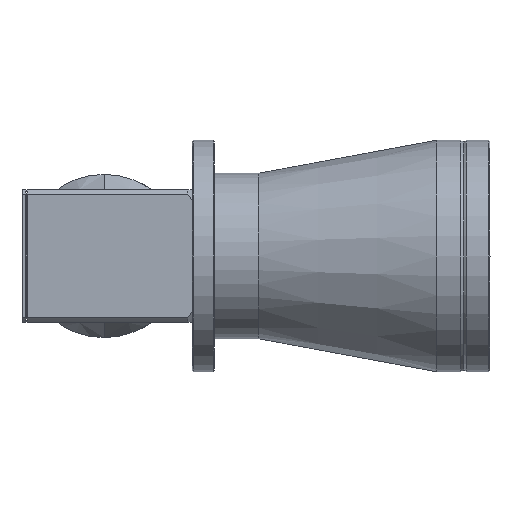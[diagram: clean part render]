
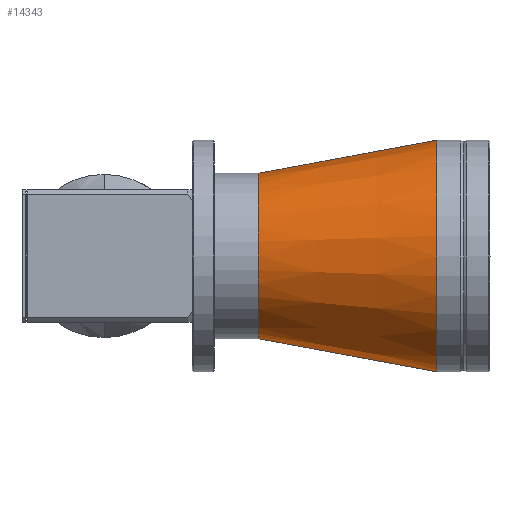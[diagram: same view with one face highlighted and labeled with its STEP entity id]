
A CAD part, left-side view. The second image highlights one B-rep face of the part: STEP entity #14343.
In plain terms, the highlighted conical face has half-angle 10.5 degrees and reference radius 37.5 mm.
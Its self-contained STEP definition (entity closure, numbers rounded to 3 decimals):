
#2229 = VECTOR ( 'NONE', #23418, 1000. ) ;
#2288 = VERTEX_POINT ( 'NONE', #15223 ) ;
#2533 = CARTESIAN_POINT ( 'NONE',  ( 0., 305., -37.5 ) ) ;
#2800 = EDGE_CURVE ( 'NONE', #2288, #15027, #10787, .T. ) ;
#3652 = DIRECTION ( 'NONE',  ( 0., -1., 0. ) ) ;
#3839 = EDGE_LOOP ( 'NONE', ( #4090, #6891, #12583, #14192 ) ) ;
#4004 = DIRECTION ( 'NONE',  ( 0., -0.983, -0.182 ) ) ;
#4056 = AXIS2_PLACEMENT_3D ( 'NONE', #11404, #19135, #13535 ) ;
#4090 = ORIENTED_EDGE ( 'NONE', *, *, #9732, .F. ) ;
#5404 = VERTEX_POINT ( 'NONE', #23594 ) ;
#5458 = CARTESIAN_POINT ( 'NONE',  ( 0., 224.067, 0. ) ) ;
#5528 = DIRECTION ( 'NONE',  ( 0., 0., -1. ) ) ;
#5709 = FACE_OUTER_BOUND ( 'NONE', #3839, .T. ) ;
#5789 = AXIS2_PLACEMENT_3D ( 'NONE', #5458, #9451, #16882 ) ;
#6161 = CARTESIAN_POINT ( 'NONE',  ( 0., 224.067, 52.5 ) ) ;
#6891 = ORIENTED_EDGE ( 'NONE', *, *, #2800, .T. ) ;
#9451 = DIRECTION ( 'NONE',  ( 0., -1., 0. ) ) ;
#9732 = EDGE_CURVE ( 'NONE', #2288, #18318, #23346, .T. ) ;
#10787 = CIRCLE ( 'NONE', #16550, 37.5 ) ;
#11102 = CARTESIAN_POINT ( 'NONE',  ( 0., 305., 0. ) ) ;
#11215 = CARTESIAN_POINT ( 'NONE',  ( 0., 305., -37.5 ) ) ;
#11280 = LINE ( 'NONE', #11215, #20100 ) ;
#11404 = CARTESIAN_POINT ( 'NONE',  ( 0., 305., 0. ) ) ;
#11519 = CIRCLE ( 'NONE', #5789, 52.5 ) ;
#12583 = ORIENTED_EDGE ( 'NONE', *, *, #14875, .T. ) ;
#13535 = DIRECTION ( 'NONE',  ( 0., 0., -1. ) ) ;
#14192 = ORIENTED_EDGE ( 'NONE', *, *, #15576, .F. ) ;
#14343 = ADVANCED_FACE ( 'NONE', ( #5709 ), #19246, .T. ) ;
#14875 = EDGE_CURVE ( 'NONE', #15027, #5404, #11280, .T. ) ;
#15027 = VERTEX_POINT ( 'NONE', #2533 ) ;
#15223 = CARTESIAN_POINT ( 'NONE',  ( 0., 305., 37.5 ) ) ;
#15576 = EDGE_CURVE ( 'NONE', #18318, #5404, #11519, .T. ) ;
#16550 = AXIS2_PLACEMENT_3D ( 'NONE', #11102, #3652, #5528 ) ;
#16882 = DIRECTION ( 'NONE',  ( 0., 0., -1. ) ) ;
#18318 = VERTEX_POINT ( 'NONE', #6161 ) ;
#19135 = DIRECTION ( 'NONE',  ( 0., -1., 0. ) ) ;
#19246 = CONICAL_SURFACE ( 'NONE', #4056, 37.5, 0.183 ) ;
#20100 = VECTOR ( 'NONE', #4004, 1000. ) ;
#21198 = CARTESIAN_POINT ( 'NONE',  ( 0., 305., 37.5 ) ) ;
#23346 = LINE ( 'NONE', #21198, #2229 ) ;
#23418 = DIRECTION ( 'NONE',  ( 0., -0.983, 0.182 ) ) ;
#23594 = CARTESIAN_POINT ( 'NONE',  ( 0., 224.067, -52.5 ) ) ;
